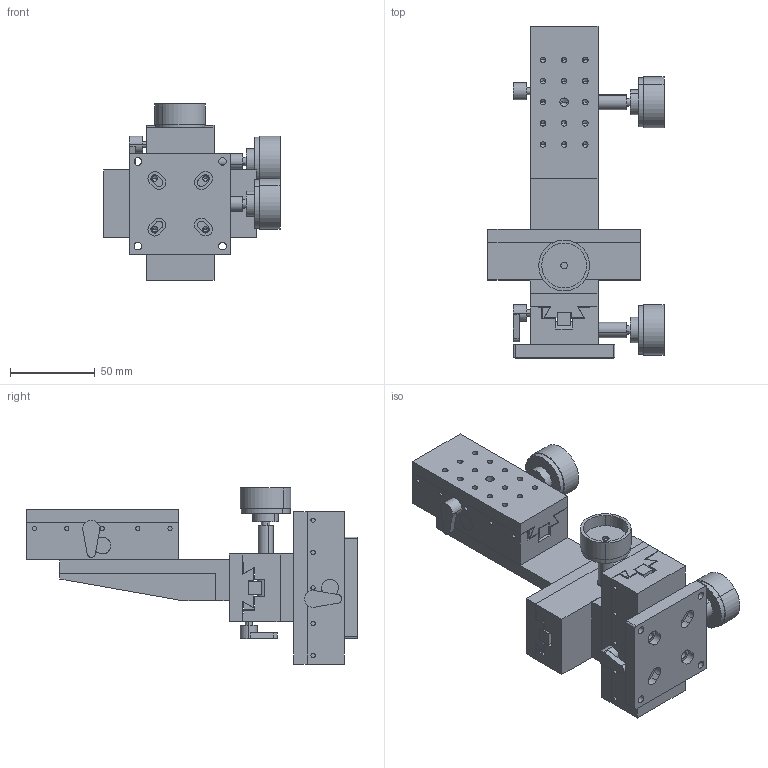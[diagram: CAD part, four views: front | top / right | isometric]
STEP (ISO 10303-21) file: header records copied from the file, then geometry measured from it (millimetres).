
FILE_DESCRIPTION (( 'STEP AP203' ), '1' );
FILE_NAME ('JD4-49P.STEP', '2013-12-24T03:00:23', ( 'MTT' ), ( '' ), 'SwSTEP 2.0', 'SolidWorks 2013', '' );
FILE_SCHEMA (( 'CONFIG_CONTROL_DESIGN' ));
Length unit declared in the file: millimetre
Products named in the file (22): Screw Guide-JD3-49P; Joint Braket(48P,49P,414P,419P); Top Plate-49P; JD2-49P; Pinion-49P; JD3-49P-single; Z Braket-49P; Screw-49P; JD3-49P; Bottom Plate-JD3-49P; Screw Head-49P; JD4-49P; Top Plate-JD3-49P; Screw Guide-49P; Pinion-JD3-49P; Body Holder; Screw-JD3-49P; JD1-49P-single; Plate(46P,48P,49P,414P,419P); Screw Head-JD3-49P; JD1-49P; Bottom Plate-49P
Assembly tree (23 placements, depth 5):
  JD4-49P
    JD2-49P
      JD1-49P
        Plate(46P,48P,49P,414P,419P)
        JD1-49P-single
          Bottom Plate-49P
          Top Plate-49P
          Pinion-49P
          Screw-49P
          Screw Head-49P
          Screw Guide-49P
          Body Holder
      JD1-49P-single
        Bottom Plate-49P
        Top Plate-49P
        Pinion-49P
        Screw-49P
        Screw Head-49P
        Screw Guide-49P
        Body Holder
      Joint Braket(48P,49P,414P,419P)
    JD3-49P
      Z Braket-49P
      JD3-49P-single
        Bottom Plate-JD3-49P
        Top Plate-JD3-49P
        Pinion-JD3-49P
        Screw-JD3-49P
        Screw Head-JD3-49P
        Screw Guide-JD3-49P
        Body Holder
Bounding box: 104 x 196 x 104 mm (x, y, z)
Volume: 411519.4 mm3; surface area: 160781.1 mm2
Topology: 24 solids, 24 shells, 845 faces, 2096 edges, 1285 vertices
Faces by surface type: cylinder 437, plane 278, cone 130
Entity records: 20291 total; most frequent: DIRECTION 3317, CARTESIAN_POINT 3134, ORIENTED_EDGE 2830, EDGE_CURVE 1415, AXIS2_PLACEMENT_3D 1277, VERTEX_POINT 926, EDGE_LOOP 803, VECTOR 763
